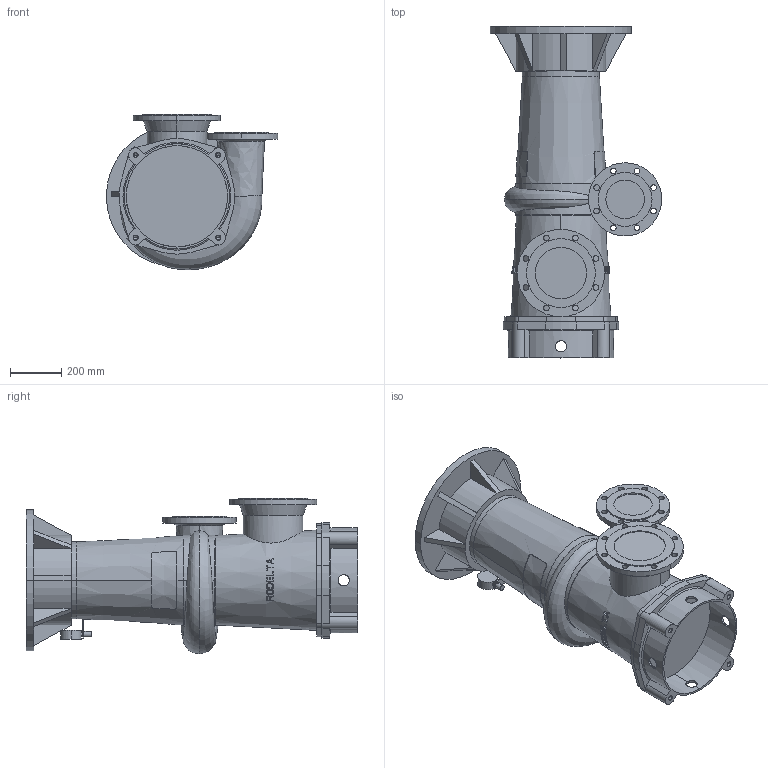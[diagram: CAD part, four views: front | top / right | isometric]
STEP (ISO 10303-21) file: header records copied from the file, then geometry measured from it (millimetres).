
FILE_DESCRIPTION((''),'2;1');
FILE_NAME('7410_VOOR_BLAD_ASM','2024-07-23T',('Lyritlocal'),(''),'PRO/ENGINEER BY PARAMETRIC TECHNOLOGY CORPORATION, 2016360','PRO/ENGINEER BY PARAMETRIC TECHNOLOGY CORPORATION, 2016360','');
FILE_SCHEMA(('CONFIG_CONTROL_DESIGN'));
Length unit declared in the file: millimetre
Products named in the file (3): 7410; 7410_VOET; 7410_VOOR_BLAD_ASM
Assembly tree (2 placements, depth 2):
  7410_VOOR_BLAD_ASM
    7410
    7410_VOET
Bounding box: 667.5 x 1292 x 606.37 mm (x, y, z)
Volume: 142858668 mm3; surface area: 3346063.5 mm2
Topology: 2 solids, 6 shells, 554 faces, 1491 edges, 983 vertices
Faces by surface type: plane 368, cylinder 138, cone 38, bspline 6, torus 4
Entity records: 19705 total; most frequent: CARTESIAN_POINT 6220, ORIENTED_EDGE 2950, DIRECTION 2529, EDGE_CURVE 1483, VERTEX_POINT 983, AXIS2_PLACEMENT_3D 961, EDGE_LOOP 646, VECTOR 607
